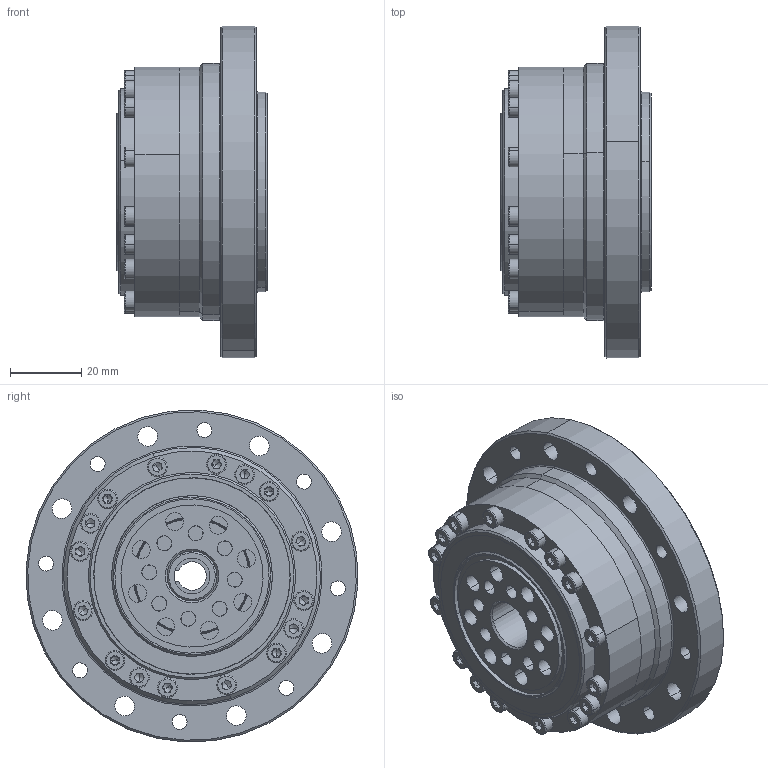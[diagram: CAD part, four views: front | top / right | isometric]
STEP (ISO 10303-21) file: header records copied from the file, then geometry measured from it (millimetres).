
FILE_DESCRIPTION (( 'STEP AP203' ), '1' );
FILE_NAME ('LCSG-20-XXX-C-I.STEP', '2018-07-24T04:59:48', ( 'Windows 蚚誧' ), ( 'Users' ), 'SwSTEP 2.0', 'SolidWorks 2013', '' );
FILE_SCHEMA (( 'CONFIG_CONTROL_DESIGN' ));
Length unit declared in the file: millimetre
Products named in the file (16): 疏楷汜ん-20G-I; socket head cap screw_din_DIN 912 M3 x 16 --- 16C; LCSG-20-XXX-C-I; socket head cap screw_din_DIN 912 M3 x 12 --- 12C; LCSG-20-XXX-P03-I; LCSG-20-XXX-P01-I; DB-20G-I; LCSG-20-XXX-P02-I; RZC-20G内外圈+钢球; LCSG-20-XXX-P04-I; RZC-20悵厥殤; LCSG-20-XXX-P05-I; 柔性轴承RZC-20G; YF-20-I; countersunk flat head cross recess screw_din_ISO 7046-1 - M2.5 x 4 - Z --- 4C; socket head cap screw_din_DIN 912 M5 x 16 --- 16C
Assembly tree (39 placements, depth 4):
  LCSG-20-XXX-C-I
    LCSG-20-XXX-P01-I
    LCSG-20-XXX-P02-I
    LCSG-20-XXX-P04-I
    LCSG-20-XXX-P05-I
    YF-20-I
    socket head cap screw_din_DIN 912 M5 x 16 --- 16C  x8
    socket head cap screw_din_DIN 912 M3 x 16 --- 16C  x8
    socket head cap screw_din_DIN 912 M3 x 12 --- 12C  x8
    疏楷汜ん-20G-I
      LCSG-20-XXX-P03-I
      DB-20G-I
      柔性轴承RZC-20G
        RZC-20G内外圈+钢球
        RZC-20悵厥殤
      countersunk flat head cross recess screw_din_ISO 7046-1 - M2.5 x 4 - Z --- 4C  x4
Bounding box: 42 x 92.92 x 92.92 mm (x, y, z)
Volume: 131156.9 mm3; surface area: 89226.3 mm2
Topology: 62 solids, 62 shells, 1551 faces, 3605 edges, 2147 vertices
Faces by surface type: plane 548, cylinder 461, cone 352, torus 144, sphere 46
Entity records: 27814 total; most frequent: DIRECTION 4925, CARTESIAN_POINT 4649, ORIENTED_EDGE 3932, AXIS2_PLACEMENT_3D 2087, EDGE_CURVE 1966, VERTEX_POINT 1223, CIRCLE 1182, EDGE_LOOP 1085
